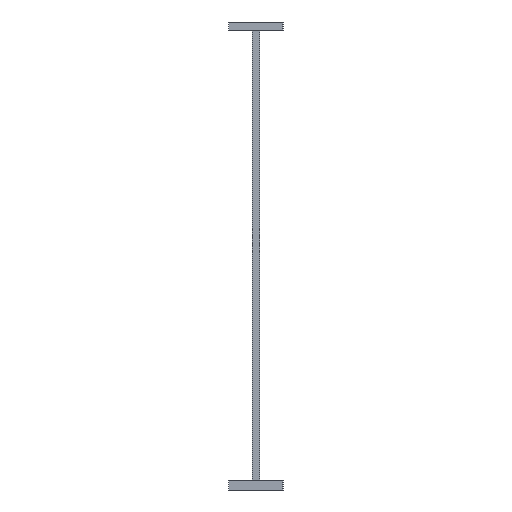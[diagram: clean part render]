
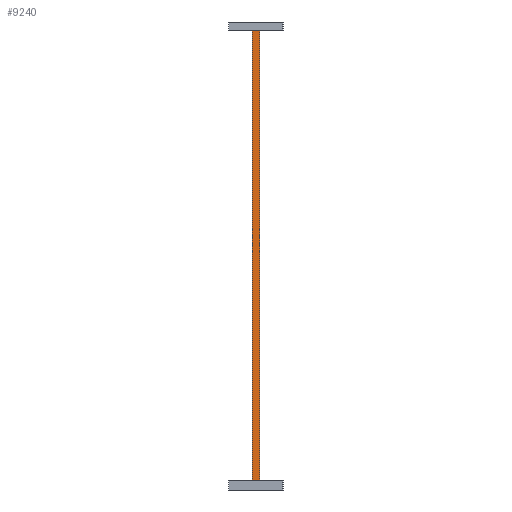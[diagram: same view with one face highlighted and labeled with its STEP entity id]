
A CAD part, left-side view. The second image highlights one B-rep face of the part: STEP entity #9240.
In plain terms, the highlighted planar face has unit normal (-1, 0, 0).
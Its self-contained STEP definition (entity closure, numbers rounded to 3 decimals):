
#1340=CARTESIAN_POINT('',(0.,4.,0.));
#1350=DIRECTION('',(0.,0.,1.));
#1360=VECTOR('',#1350,1.);
#1370=LINE('',#1340,#1360);
#1380=CARTESIAN_POINT('',(0.,4.,-100.));
#1390=VERTEX_POINT('',#1380);
#1400=CARTESIAN_POINT('',(0.,4.,150.));
#1410=VERTEX_POINT('',#1400);
#1420=EDGE_CURVE('',#1390,#1410,#1370,.T.);
#5040=CARTESIAN_POINT('',(0.,4.,-100.));
#5050=DIRECTION('',(0.,-1.,0.));
#5060=VECTOR('',#5050,1.);
#5070=LINE('',#5040,#5060);
#5080=CARTESIAN_POINT('',(0.,0.,-100.));
#5090=VERTEX_POINT('',#5080);
#5100=EDGE_CURVE('',#1390,#5090,#5070,.T.);
#5610=CARTESIAN_POINT('',(0.,0.,0.));
#5620=DIRECTION('',(0.,0.,1.));
#5630=VECTOR('',#5620,1.);
#5640=LINE('',#5610,#5630);
#5650=CARTESIAN_POINT('',(0.,0.,150.));
#5660=VERTEX_POINT('',#5650);
#5670=EDGE_CURVE('',#5090,#5660,#5640,.T.);
#9080=CARTESIAN_POINT('',(0.,0.,0.));
#9090=DIRECTION('',(-1.,0.,0.));
#9100=DIRECTION('',(0.,1.,0.));
#9110=AXIS2_PLACEMENT_3D('',#9080,#9090,#9100);
#9120=PLANE('',#9110);
#9130=ORIENTED_EDGE('',*,*,#5670,.T.);
#9140=ORIENTED_EDGE('',*,*,#5100,.T.);
#9150=ORIENTED_EDGE('',*,*,#1420,.F.);
#9160=CARTESIAN_POINT('',(0.,0.,150.));
#9170=DIRECTION('',(0.,-1.,0.));
#9180=VECTOR('',#9170,1.);
#9190=LINE('',#9160,#9180);
#9200=EDGE_CURVE('',#1410,#5660,#9190,.T.);
#9210=ORIENTED_EDGE('',*,*,#9200,.F.);
#9220=EDGE_LOOP('',(#9210,#9150,#9140,#9130));
#9230=FACE_OUTER_BOUND('',#9220,.T.);
#9240=ADVANCED_FACE('',(#9230),#9120,.T.);
